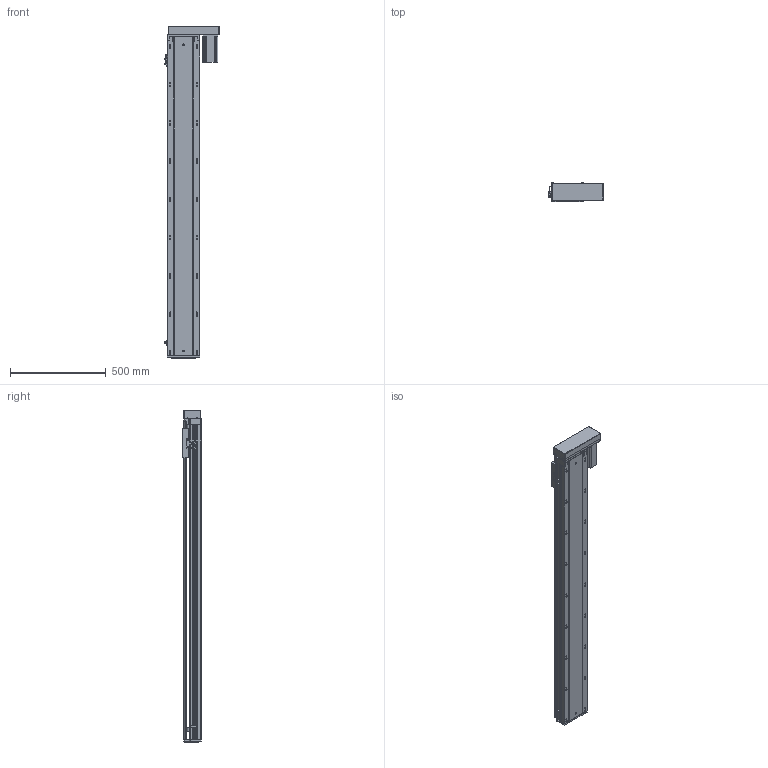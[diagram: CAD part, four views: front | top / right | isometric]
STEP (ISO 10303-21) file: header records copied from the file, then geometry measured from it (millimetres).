
FILE_DESCRIPTION (( 'STEP AP203' ), '1' );
FILE_NAME ('RY170-L2510-1400-RK.SLDASM_1400.step', '2021-03-12T09:37:26', ( '盈信电脑' ), ( '东莞市道滘镇水果街19号' ), 'SwSTEP 2.0', 'SolidWorks 2012', '' );
FILE_SCHEMA (( 'CONFIG_CONTROL_DESIGN' ));
Products named in the file (13): RY170外置感应片(200共用）; RY170-L2510-1400-RK.SLDASM_1400; RY170-酘衵殏750W萇儂傷; 覜茼ん672; 怢湛750W萇儂ㄗ80遺ㄘ; RY170-左右折电机安装板750W; RY170酘衵殏萇儂欶750W; RY170转折电机端支撑座(7004); RY170綴裔啣; RY170-1400倰第裔啣-LK_1400; 改造-RY170铝滑块25丝杆螺母; 滅袉蝶18-20; RY170-1400倰第菁釱-LK_1400
Assembly tree (15 placements, depth 3):
  RY170-L2510-1400-RK.SLDASM_1400
    RY170-1400倰第菁釱-LK_1400
    改造-RY170铝滑块25丝杆螺母
    RY170-1400倰第裔啣-LK_1400
    RY170綴裔啣
    滅袉蝶18-20  x2
    RY170转折电机端支撑座(7004)
    RY170-酘衵殏750W萇儂傷
      RY170-左右折电机安装板750W
      RY170酘衵殏萇儂欶750W
      怢湛750W萇儂ㄗ80遺ㄘ
    覜茼ん672  x3
    RY170外置感应片(200共用）
Bounding box: 286.2 x 97 x 1735 mm (x, y, z)
Volume: 9007932.5 mm3; surface area: 2888142.4 mm2
Topology: 14 solids, 14 shells, 2305 faces, 6626 edges, 4234 vertices
Faces by surface type: plane 1092, cylinder 980, cone 214, bspline 19
Entity records: 74666 total; most frequent: CARTESIAN_POINT 18186, ORIENTED_EDGE 11880, DIRECTION 10990, EDGE_CURVE 5940, VERTEX_POINT 3902, AXIS2_PLACEMENT_3D 3696, LINE 3598, VECTOR 3598
